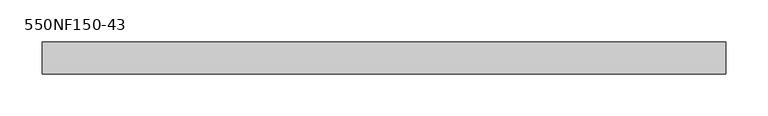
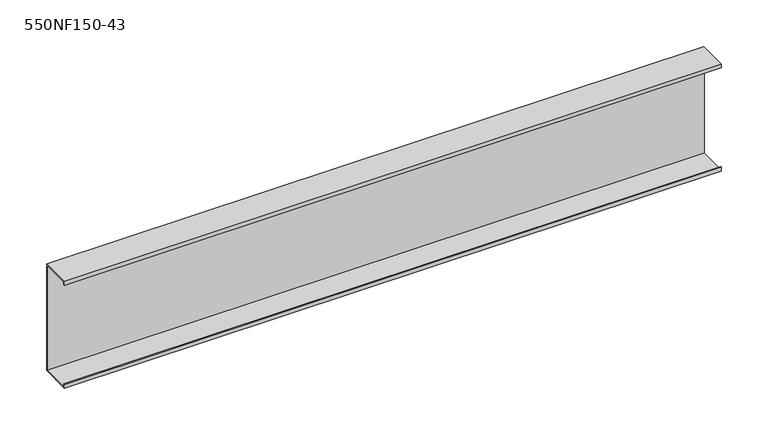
"""IFC4 building model written with IfcOpenShell, lengths in millimetres: beam geometry, BIMSF-SSMA-S : 550NF150-43."""

from ifc_helpers import new_model, si_unit, frame, origin, place, context, project, spatial, polyline, outline, extrude, source, transform, mapped, element, save


def beam_550nf150_43_b2ab99cf(model_context):
    return source(origin(), model_context, "Body", "SweptSolid", [
        extrude(outline(polyline([(19.05, 69.85), (19.05, -69.85), (-19.05, -69.85), (-19.05, -65.0748), (-17.9003158, -65.0748), (-17.9003158, -68.7003158), (17.9003158, -68.7003158), (17.9003158, 68.7003158), (-17.9003158, 68.7003158), (-17.9003158, 65.0748), (-19.05, 65.0748), (-19.05, 69.85), (19.05, 69.85)])), frame((-406.4, 0.0, 0.0), z_axis=(1.0, 0.0, 0.0), x_axis=(0.0, 1.0, 0.0)), (0.0, 0.0, 1.0), 812.8),
    ])


if __name__ == "__main__":
    model = new_model("IFC4")
    model_context = context("Model", 3, world=origin())
    ifc_project = project(units=[si_unit("LENGTHUNIT", "METRE", prefix="MILLI")], contexts=[model_context])
    site = spatial("IfcSite", under=ifc_project)
    building = spatial("IfcBuilding", under=site)
    placement = place(None, origin())
    beam_550nf150_43_shape = beam_550nf150_43_b2ab99cf(model_context)
    element("IfcBeam", 1, ObjectType="BIMSF-SSMA-S : 550NF150-43", at=placement, inside=building, context=model_context, shape_type="MappedRepresentation", body=[
        mapped(beam_550nf150_43_shape, transform((0.0, 0.0, 0.0), x_axis=(1.0, 0.0, 0.0), y_axis=(0.0, 1.0, 0.0), z_axis=(0.0, 0.0, 1.0))),
    ])
    save(model, "model.ifc")
